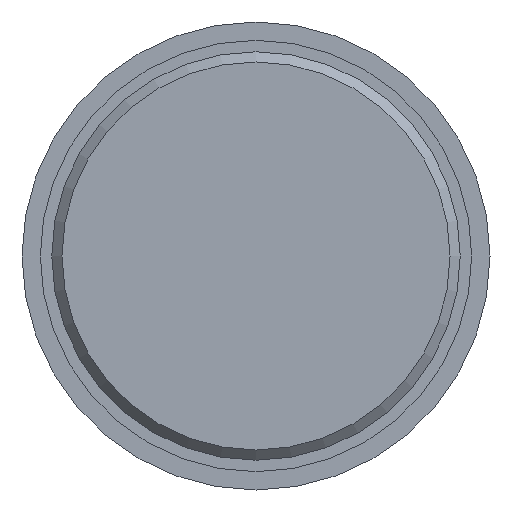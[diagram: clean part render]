
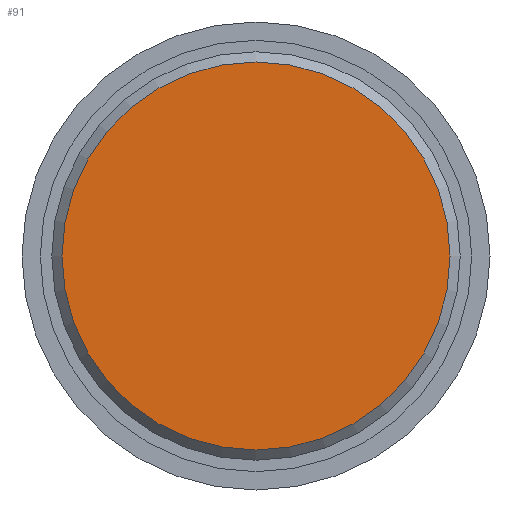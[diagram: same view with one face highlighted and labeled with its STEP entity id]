
A CAD part, front view. The second image highlights one B-rep face of the part: STEP entity #91.
In plain terms, the highlighted planar face has unit normal (0, -1, 0).
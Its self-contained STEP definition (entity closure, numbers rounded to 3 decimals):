
#91 = ADVANCED_FACE( '', ( #138 ), #139, .F. );
#138 = FACE_OUTER_BOUND( '', #193, .T. );
#139 = PLANE( '', #194 );
#193 = EDGE_LOOP( '', ( #308 ) );
#194 = AXIS2_PLACEMENT_3D( '', #309, #310, #311 );
#308 = ORIENTED_EDGE( '', *, *, #359, .T. );
#309 = CARTESIAN_POINT( '', ( 22.8, 0., 0. ) );
#310 = DIRECTION( '', ( 0., 1., 0. ) );
#311 = DIRECTION( '', ( 0., 0., 1. ) );
#359 = EDGE_CURVE( '', #411, #411, #412, .T. );
#411 = VERTEX_POINT( '', #485 );
#412 = CIRCLE( '', #486, 22.8 );
#485 = CARTESIAN_POINT( '', ( 0., 0., -22.8 ) );
#486 = AXIS2_PLACEMENT_3D( '', #538, #539, #540 );
#538 = CARTESIAN_POINT( '', ( 0., 0., 0. ) );
#539 = DIRECTION( '', ( 0., -1., 0. ) );
#540 = DIRECTION( '', ( 0., 0., -1. ) );
